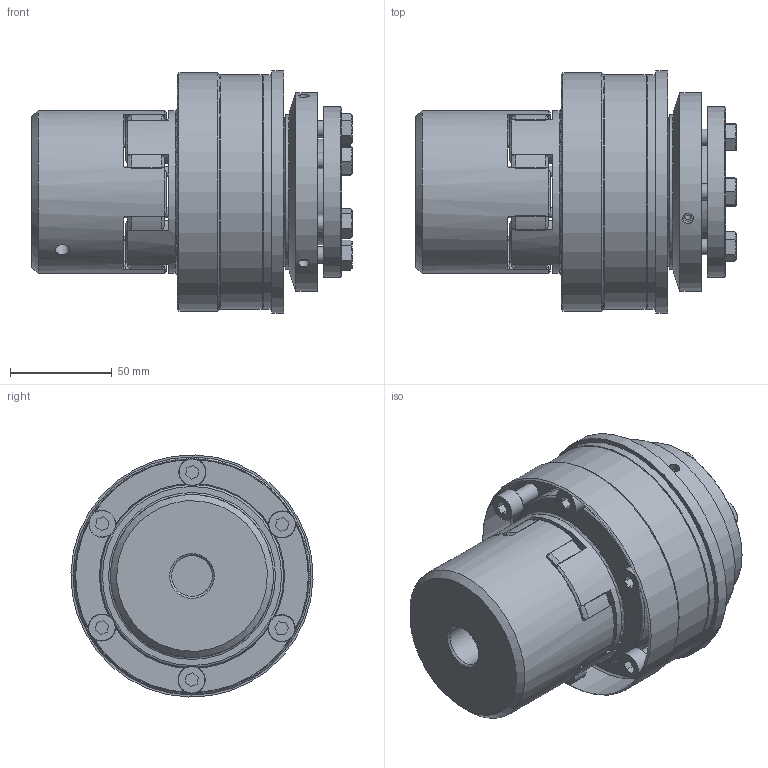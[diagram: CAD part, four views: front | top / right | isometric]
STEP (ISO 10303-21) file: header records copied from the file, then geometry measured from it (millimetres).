
FILE_DESCRIPTION( ( 'Unknown' ), '1' );
FILE_NAME( 'C:/Users/skarpstein/Desktop/Korrigierte 3D Modelle/KBK-E-PI/KBK EPI-38.stp', 'Unknown', ( 'Unknown' ), ( 'Unknown' ), 'PSStep 16.0.42', 'Unknown', ' ' );
FILE_SCHEMA( ( 'AUTOMOTIVE_DESIGN { 1 0 10303 214 1 1 1 1 }' ) );
Length unit declared in the file: millimetre
Products named in the file (30): ball_bearing_-_6011_0_02; ball_bearing_-_6011_0_01; Zylinderschraube DIN 912_2; ball_bearing_-_6011_0_03; Elastomerflansch 38; Zahnkranz_38_Standard; Konusbuchse 300; Assem1_3; Assem2_1; Stellring 300; a_55; Flansch 300; Kupplung L-I-300 Grundkörper; Druckring 300; din_en_24017_m8x30; Assem1; KBE 1 - 38_Nabe
Assembly tree (39 placements, depth 4):
  Assem1
    KBE 1 - 38_Nabe
    Kupplung L-I-300 Grundkörper
      Kupplung L-I-300 Grundkörper
    Konusbuchse 300
      Konusbuchse 300
    Stellring 300
      Stellring 300
    Druckring 300
      Druckring 300
    Flansch 300
      Flansch 300
    a_55
      a_55
    din_en_24017_m8x30  x6
      din_en_24017_m8x30
    Elastomerflansch 38
      Elastomerflansch 38
    Zahnkranz_38_Standard
      Zahnkranz_38_Standard
    Assem1_3
      ball_bearing_-_6011_0_01
        ball_bearing_-_6011_0_01
      ball_bearing_-_6011_0_02
        ball_bearing_-_6011_0_02
      ball_bearing_-_6011_0_03
        ball_bearing_-_6011_0_03
    Assem2_1  x6
      Zylinderschraube DIN 912_2
        Zylinderschraube DIN 912_2
Bounding box: 157.3 x 118.96 x 118.96 mm (x, y, z)
Volume: 902785.3 mm3; surface area: 247755.9 mm2
Topology: 24 solids, 24 shells, 585 faces, 1299 edges, 820 vertices
Faces by surface type: plane 212, cylinder 172, cone 170, torus 31
Full cylindrical faces by diameter (mm): 2.5 x2, 3.242 x3, 5 x8, 5.2 x3, 6.647 x15, 6.8 x1, 8 x12, 8.2 x6, 8.5 x6, 11.63 x6, 13 x6, 13.2 x6, 20 x1, 25 x2, 38 x2, 40 x1, 52 x2, 55 x3, 66.3 x2, 76 x3, 79.1 x2, 80 x2, 83.5 x1, 84 x1, 88 x1, 90 x3, 98 x1, 98.5 x1, 115 x2, 117 x1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
Entity records: 15418 total; most frequent: CARTESIAN_POINT 2785, DIRECTION 2032, ORIENTED_EDGE 1532, AXIS2_PLACEMENT_3D 949, EDGE_CURVE 766, EDGE_LOOP 636, VERTEX_POINT 552, FACE_OUTER_BOUND 508
